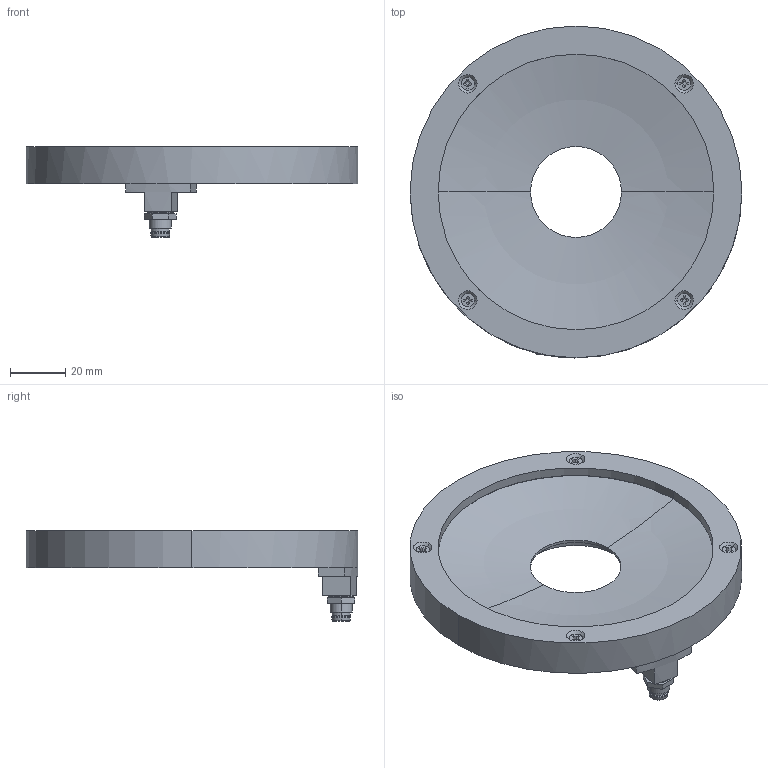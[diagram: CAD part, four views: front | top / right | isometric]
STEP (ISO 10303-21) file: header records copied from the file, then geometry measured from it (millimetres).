
FILE_DESCRIPTION(('STEP AP214'),'1');
FILE_NAME('Arena-100 Kundenmodell 4P.stp','2020-03-11T12:40:36',(' '),(' '),'Spatial InterOp 3D',' ',' ');
FILE_SCHEMA(('AUTOMOTIVE_DESIGN { 1 0 10303 214 1 1 1 1 }'));
Length unit declared in the file: metre
Products named in the file (1): Volumenkörper
Bounding box: 120.4 x 120.42 x 32.84 mm (x, y, z)
Volume: 73081.4 mm3; surface area: 46688.8 mm2
Topology: 1 solids, 4 shells, 521 faces, 1253 edges, 807 vertices
Faces by surface type: plane 234, cylinder 211, cone 42, torus 24, sphere 10
Entity records: 17889 total; most frequent: CARTESIAN_POINT 3318, DIRECTION 2772, ORIENTED_EDGE 2474, EDGE_CURVE 1237, AXIS2_PLACEMENT_3D 1061, VERTEX_POINT 807, LINE 650, VECTOR 650
